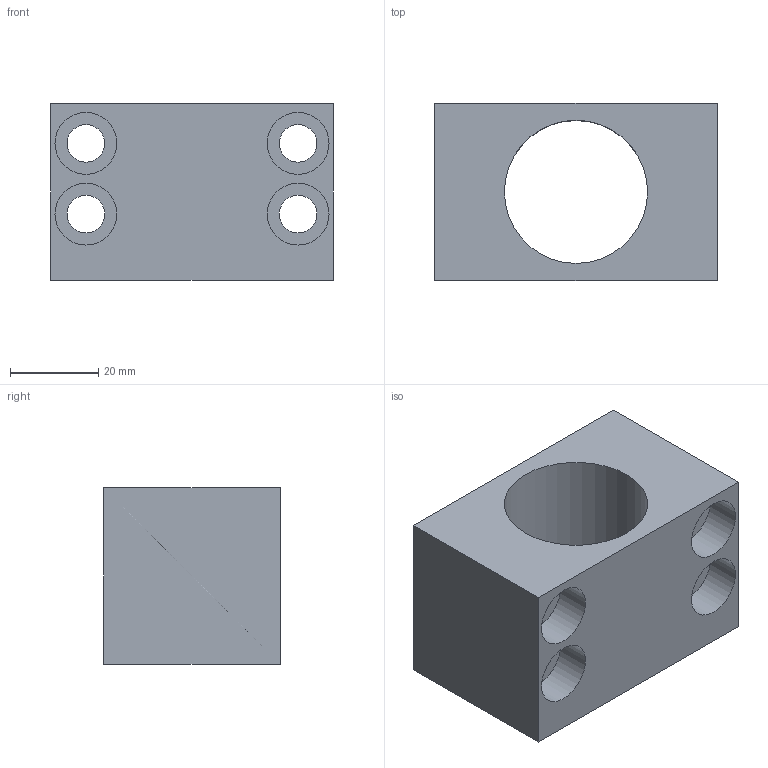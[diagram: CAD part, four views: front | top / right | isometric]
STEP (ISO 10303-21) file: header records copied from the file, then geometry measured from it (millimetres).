
FILE_DESCRIPTION(/* description */ (''),/* implementation_level */ '2;1');
FILE_NAME(/* name */ 'NH16B.stp',/* time_stamp */ '2017-01-05T13:59:51+08:00',/* author */ (''),/* organization */ (''),/* preprocessor_version */ 'ST-DEVELOPER v15',/* originating_system */ 'SIEMENS PLM Software NX 8.5',/* authorisation */ '');
FILE_SCHEMA (('AUTOMOTIVE_DESIGN { 1 0 10303 214 3 1 1 1 }'));
Length unit declared in the file: millimetre
Products named in the file (1): Admi1CF0E4A5a5x7
Bounding box: 64 x 40 x 40 mm (x, y, z)
Volume: 55440.1 mm3; surface area: 21009.4 mm2
Topology: 1 solids, 1 shells, 43 faces, 92 edges, 63 vertices
Faces by surface type: cylinder 21, plane 18, cone 4
Full cylindrical faces by diameter (mm): 3.3 x4, 4 x4, 8.5 x4, 10 x4, 14 x4, 32.4 x1
Entity records: 1014 total; most frequent: DIRECTION 184, CARTESIAN_POINT 152, ORIENTED_EDGE 108, FACE_BOUND 92, EDGE_LOOP 90, AXIS2_PLACEMENT_3D 86, VERTEX_POINT 54, EDGE_CURVE 54
